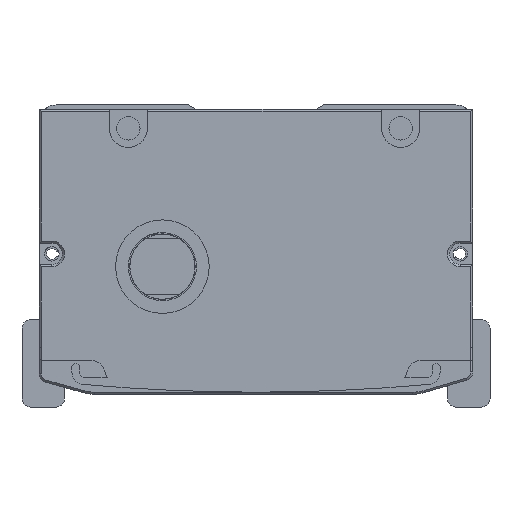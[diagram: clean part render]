
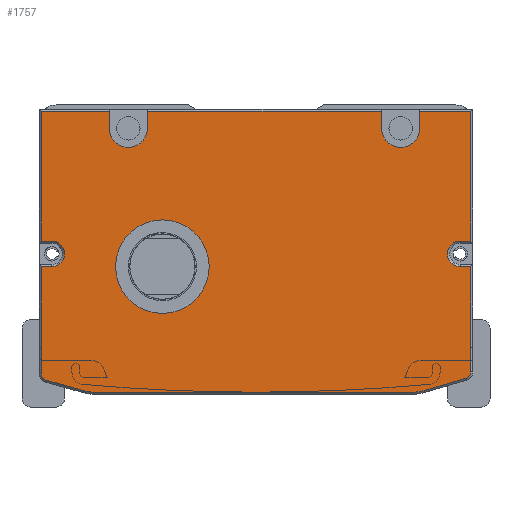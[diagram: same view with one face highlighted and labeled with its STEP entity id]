
A CAD part, front view. The second image highlights one B-rep face of the part: STEP entity #1757.
In plain terms, the highlighted planar face has unit normal (0, -1, 0).
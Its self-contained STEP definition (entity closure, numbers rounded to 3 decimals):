
#1034=FACE_BOUND('',#3651,.T.);
#1035=FACE_BOUND('',#3652,.T.);
#1757=ADVANCED_FACE('',(#1034,#1035),#2480,.F.);
#2480=PLANE('',#14782);
#3651=EDGE_LOOP('',(#6605));
#3652=EDGE_LOOP('',(#6606,#6607,#6608,#6609,#6610,#6611,#6612,#6613,#6614,
#6615,#6616,#6617,#6618,#6619,#6620,#6621,#6622,#6623,#6624,#6625,#6626,
#6627,#6628,#6629,#6630,#6631,#6632,#6633));
#4681=CIRCLE('',#14693,3.);
#4684=CIRCLE('',#14701,3.);
#4687=CIRCLE('',#14713,1.5);
#4689=CIRCLE('',#14717,9.5);
#4691=CIRCLE('',#14721,9.5);
#4693=CIRCLE('',#14725,1.5);
#4698=CIRCLE('',#14740,4.5);
#4702=CIRCLE('',#14746,4.5);
#4703=CIRCLE('',#14755,11.);
#6605=ORIENTED_EDGE('',*,*,#11184,.F.);
#6606=ORIENTED_EDGE('',*,*,#11078,.T.);
#6607=ORIENTED_EDGE('',*,*,#10974,.T.);
#6608=ORIENTED_EDGE('',*,*,#11165,.T.);
#6609=ORIENTED_EDGE('',*,*,#10978,.T.);
#6610=ORIENTED_EDGE('',*,*,#11213,.T.);
#6611=ORIENTED_EDGE('',*,*,#10984,.T.);
#6612=ORIENTED_EDGE('',*,*,#11161,.T.);
#6613=ORIENTED_EDGE('',*,*,#10988,.T.);
#6614=ORIENTED_EDGE('',*,*,#11214,.T.);
#6615=ORIENTED_EDGE('',*,*,#11082,.T.);
#6616=ORIENTED_EDGE('',*,*,#11088,.T.);
#6617=ORIENTED_EDGE('',*,*,#11091,.T.);
#6618=ORIENTED_EDGE('',*,*,#11094,.T.);
#6619=ORIENTED_EDGE('',*,*,#11096,.T.);
#6620=ORIENTED_EDGE('',*,*,#11126,.T.);
#6621=ORIENTED_EDGE('',*,*,#11130,.T.);
#6622=ORIENTED_EDGE('',*,*,#11133,.T.);
#6623=ORIENTED_EDGE('',*,*,#11136,.T.);
#6624=ORIENTED_EDGE('',*,*,#11139,.T.);
#6625=ORIENTED_EDGE('',*,*,#11142,.T.);
#6626=ORIENTED_EDGE('',*,*,#11145,.T.);
#6627=ORIENTED_EDGE('',*,*,#11147,.T.);
#6628=ORIENTED_EDGE('',*,*,#11124,.T.);
#6629=ORIENTED_EDGE('',*,*,#11114,.T.);
#6630=ORIENTED_EDGE('',*,*,#11111,.T.);
#6631=ORIENTED_EDGE('',*,*,#11108,.T.);
#6632=ORIENTED_EDGE('',*,*,#11105,.T.);
#6633=ORIENTED_EDGE('',*,*,#11100,.T.);
#9491=VERTEX_POINT('',#21787);
#9492=VERTEX_POINT('',#21789);
#9495=VERTEX_POINT('',#21796);
#9496=VERTEX_POINT('',#21798);
#9501=VERTEX_POINT('',#21809);
#9502=VERTEX_POINT('',#21811);
#9505=VERTEX_POINT('',#21818);
#9506=VERTEX_POINT('',#21820);
#9564=VERTEX_POINT('',#22006);
#9567=VERTEX_POINT('',#22014);
#9568=VERTEX_POINT('',#22015);
#9573=VERTEX_POINT('',#22026);
#9575=VERTEX_POINT('',#22032);
#9576=VERTEX_POINT('',#22037);
#9578=VERTEX_POINT('',#22043);
#9581=VERTEX_POINT('',#22051);
#9583=VERTEX_POINT('',#22057);
#9585=VERTEX_POINT('',#22063);
#9587=VERTEX_POINT('',#22069);
#9589=VERTEX_POINT('',#22075);
#9596=VERTEX_POINT('',#22099);
#9597=VERTEX_POINT('',#22103);
#9600=VERTEX_POINT('',#22110);
#9602=VERTEX_POINT('',#22116);
#9604=VERTEX_POINT('',#22122);
#9606=VERTEX_POINT('',#22128);
#9608=VERTEX_POINT('',#22134);
#9610=VERTEX_POINT('',#22140);
#9622=VERTEX_POINT('',#22213);
#10974=EDGE_CURVE('',#9492,#9491,#12639,.T.);
#10978=EDGE_CURVE('',#9496,#9495,#12643,.T.);
#10984=EDGE_CURVE('',#9502,#9501,#12649,.T.);
#10988=EDGE_CURVE('',#9506,#9505,#12653,.T.);
#11078=EDGE_CURVE('',#9564,#9492,#12726,.T.);
#11082=EDGE_CURVE('',#9567,#9568,#12730,.T.);
#11088=EDGE_CURVE('',#9568,#9573,#12736,.T.);
#11091=EDGE_CURVE('',#9573,#9575,#4681,.T.);
#11094=EDGE_CURVE('',#9575,#9576,#12740,.T.);
#11096=EDGE_CURVE('',#9576,#9578,#12742,.T.);
#11100=EDGE_CURVE('',#9581,#9564,#12746,.T.);
#11105=EDGE_CURVE('',#9583,#9581,#12751,.T.);
#11108=EDGE_CURVE('',#9585,#9583,#4684,.T.);
#11111=EDGE_CURVE('',#9587,#9585,#12755,.T.);
#11114=EDGE_CURVE('',#9589,#9587,#12758,.T.);
#11124=EDGE_CURVE('',#9596,#9589,#12766,.T.);
#11126=EDGE_CURVE('',#9578,#9597,#12768,.T.);
#11130=EDGE_CURVE('',#9597,#9600,#4687,.T.);
#11133=EDGE_CURVE('',#9600,#9602,#12773,.T.);
#11136=EDGE_CURVE('',#9602,#9604,#4689,.T.);
#11139=EDGE_CURVE('',#9604,#9606,#12777,.T.);
#11142=EDGE_CURVE('',#9606,#9608,#4691,.T.);
#11145=EDGE_CURVE('',#9608,#9610,#12781,.T.);
#11147=EDGE_CURVE('',#9610,#9596,#4693,.T.);
#11161=EDGE_CURVE('',#9501,#9506,#4698,.T.);
#11165=EDGE_CURVE('',#9491,#9496,#4702,.T.);
#11184=EDGE_CURVE('',#9622,#9622,#4703,.T.);
#11213=EDGE_CURVE('',#9495,#9502,#12832,.T.);
#11214=EDGE_CURVE('',#9505,#9567,#12833,.T.);
#12639=LINE('',#21788,#13581);
#12643=LINE('',#21797,#13585);
#12649=LINE('',#21810,#13591);
#12653=LINE('',#21819,#13595);
#12726=LINE('',#22005,#13668);
#12730=LINE('',#22013,#13672);
#12736=LINE('',#22027,#13678);
#12740=LINE('',#22039,#13682);
#12742=LINE('',#22042,#13684);
#12746=LINE('',#22050,#13688);
#12751=LINE('',#22060,#13693);
#12755=LINE('',#22072,#13697);
#12758=LINE('',#22078,#13700);
#12766=LINE('',#22098,#13708);
#12768=LINE('',#22102,#13710);
#12773=LINE('',#22117,#13715);
#12777=LINE('',#22129,#13719);
#12781=LINE('',#22141,#13723);
#12832=LINE('',#22275,#13774);
#12833=LINE('',#22276,#13775);
#13581=VECTOR('',#16945,1.);
#13585=VECTOR('',#16951,1.);
#13591=VECTOR('',#16959,1.);
#13595=VECTOR('',#16965,1.);
#13668=VECTOR('',#17132,1.);
#13672=VECTOR('',#17138,1.);
#13678=VECTOR('',#17146,1.);
#13682=VECTOR('',#17158,1.);
#13684=VECTOR('',#17162,1.);
#13688=VECTOR('',#17168,1.);
#13693=VECTOR('',#17175,1.);
#13697=VECTOR('',#17187,1.);
#13700=VECTOR('',#17192,1.);
#13708=VECTOR('',#17214,1.);
#13710=VECTOR('',#17218,1.);
#13715=VECTOR('',#17231,1.);
#13719=VECTOR('',#17243,1.);
#13723=VECTOR('',#17255,1.);
#13774=VECTOR('',#17422,1.);
#13775=VECTOR('',#17423,1.);
#14693=AXIS2_PLACEMENT_3D('',#22033,#17151,#17152);
#14701=AXIS2_PLACEMENT_3D('',#22066,#17181,#17182);
#14713=AXIS2_PLACEMENT_3D('',#22111,#17224,#17225);
#14717=AXIS2_PLACEMENT_3D('',#22123,#17236,#17237);
#14721=AXIS2_PLACEMENT_3D('',#22135,#17248,#17249);
#14725=AXIS2_PLACEMENT_3D('',#22144,#17259,#17260);
#14740=AXIS2_PLACEMENT_3D('',#22170,#17298,#17299);
#14746=AXIS2_PLACEMENT_3D('',#22178,#17310,#17311);
#14755=AXIS2_PLACEMENT_3D('',#22212,#17346,#17347);
#14782=AXIS2_PLACEMENT_3D('',#22277,#17424,#17425);
#16945=DIRECTION('',(0.,0.,-1.));
#16951=DIRECTION('',(0.,0.,1.));
#16959=DIRECTION('',(0.,0.,-1.));
#16965=DIRECTION('',(0.,0.,1.));
#17132=DIRECTION('',(-1.,0.,0.));
#17138=DIRECTION('',(0.,0.,-1.));
#17146=DIRECTION('',(1.,0.,0.));
#17151=DIRECTION('',(0.,1.,0.));
#17152=DIRECTION('',(0.,0.,1.));
#17158=DIRECTION('',(-1.,0.,0.));
#17162=DIRECTION('',(0.,0.,-1.));
#17168=DIRECTION('',(0.,0.,1.));
#17175=DIRECTION('',(1.,0.,0.));
#17181=DIRECTION('',(0.,1.,0.));
#17182=DIRECTION('',(0.,0.,1.));
#17187=DIRECTION('',(-1.,0.,0.));
#17192=DIRECTION('',(0.,0.,1.));
#17214=DIRECTION('',(0.,0.,1.));
#17218=DIRECTION('',(0.,0.,-1.));
#17224=DIRECTION('',(0.,-1.,0.));
#17225=DIRECTION('',(0.,0.,1.));
#17231=DIRECTION('',(0.963,0.,-0.269));
#17236=DIRECTION('',(0.,-1.,0.));
#17237=DIRECTION('',(0.,0.,1.));
#17243=DIRECTION('',(1.,0.,0.));
#17248=DIRECTION('',(0.,-1.,0.));
#17249=DIRECTION('',(0.,0.,1.));
#17255=DIRECTION('',(0.959,0.,0.282));
#17259=DIRECTION('',(0.,-1.,0.));
#17260=DIRECTION('',(0.,0.,1.));
#17298=DIRECTION('',(0.,1.,0.));
#17299=DIRECTION('',(0.,0.,1.));
#17310=DIRECTION('',(0.,1.,0.));
#17311=DIRECTION('',(0.,0.,1.));
#17346=DIRECTION('',(0.,-1.,0.));
#17347=DIRECTION('',(0.,0.,1.));
#17422=DIRECTION('',(-1.,0.,0.));
#17423=DIRECTION('',(-1.,0.,0.));
#17424=DIRECTION('',(0.,1.,0.));
#17425=DIRECTION('',(1.,0.,0.));
#21787=CARTESIAN_POINT('',(35.308,-407.5,-5.5));
#21788=CARTESIAN_POINT('',(35.308,-407.5,-1.));
#21789=CARTESIAN_POINT('',(35.308,-407.5,-1.5));
#21796=CARTESIAN_POINT('',(26.308,-407.5,-1.5));
#21797=CARTESIAN_POINT('',(26.308,-407.5,-1.));
#21798=CARTESIAN_POINT('',(26.308,-407.5,-5.5));
#21809=CARTESIAN_POINT('',(-28.692,-407.5,-5.5));
#21810=CARTESIAN_POINT('',(-28.692,-407.5,-1.));
#21811=CARTESIAN_POINT('',(-28.692,-407.5,-1.5));
#21818=CARTESIAN_POINT('',(-37.692,-407.5,-1.5));
#21819=CARTESIAN_POINT('',(-37.692,-407.5,-1.));
#21820=CARTESIAN_POINT('',(-37.692,-407.5,-5.5));
#22005=CARTESIAN_POINT('',(-53.692,-407.5,-1.5));
#22006=CARTESIAN_POINT('',(47.308,-407.5,-1.5));
#22013=CARTESIAN_POINT('',(-53.692,-407.5,-32.5));
#22014=CARTESIAN_POINT('',(-53.692,-407.5,-1.5));
#22015=CARTESIAN_POINT('',(-53.692,-407.5,-32.));
#22026=CARTESIAN_POINT('',(-51.192,-407.5,-32.));
#22027=CARTESIAN_POINT('',(-3.192,-407.5,-32.));
#22032=CARTESIAN_POINT('',(-51.192,-407.5,-38.));
#22033=CARTESIAN_POINT('',(-51.192,-407.5,-35.));
#22037=CARTESIAN_POINT('',(-53.692,-407.5,-38.));
#22039=CARTESIAN_POINT('',(-3.192,-407.5,-38.));
#22042=CARTESIAN_POINT('',(-53.692,-407.5,-57.));
#22043=CARTESIAN_POINT('',(-53.692,-407.5,-57.));
#22050=CARTESIAN_POINT('',(47.308,-407.5,-1.5));
#22051=CARTESIAN_POINT('',(47.308,-407.5,-32.));
#22057=CARTESIAN_POINT('',(44.808,-407.5,-32.));
#22060=CARTESIAN_POINT('',(-3.192,-407.5,-32.));
#22063=CARTESIAN_POINT('',(44.808,-407.5,-38.));
#22066=CARTESIAN_POINT('',(44.808,-407.5,-35.));
#22069=CARTESIAN_POINT('',(47.308,-407.5,-38.));
#22072=CARTESIAN_POINT('',(-3.192,-407.5,-38.));
#22075=CARTESIAN_POINT('',(47.308,-407.5,-57.));
#22078=CARTESIAN_POINT('',(47.308,-407.5,-37.5));
#22098=CARTESIAN_POINT('',(47.308,-407.5,-37.5));
#22099=CARTESIAN_POINT('',(47.308,-407.5,-62.758));
#22102=CARTESIAN_POINT('',(-53.692,-407.5,-59.712));
#22103=CARTESIAN_POINT('',(-53.692,-407.5,-63.212));
#22110=CARTESIAN_POINT('',(-52.596,-407.5,-64.657));
#22111=CARTESIAN_POINT('',(-52.192,-407.5,-63.212));
#22116=CARTESIAN_POINT('',(-43.674,-407.5,-67.15));
#22117=CARTESIAN_POINT('',(-43.674,-407.5,-67.15));
#22122=CARTESIAN_POINT('',(-41.118,-407.5,-67.5));
#22123=CARTESIAN_POINT('',(-41.118,-407.5,-58.));
#22128=CARTESIAN_POINT('',(33.631,-407.5,-67.5));
#22129=CARTESIAN_POINT('',(33.631,-407.5,-67.5));
#22134=CARTESIAN_POINT('',(36.312,-407.5,-67.114));
#22135=CARTESIAN_POINT('',(33.631,-407.5,-58.));
#22140=CARTESIAN_POINT('',(46.231,-407.5,-64.197));
#22141=CARTESIAN_POINT('',(46.231,-407.5,-64.197));
#22144=CARTESIAN_POINT('',(45.808,-407.5,-62.758));
#22170=CARTESIAN_POINT('',(-33.192,-407.5,-5.5));
#22178=CARTESIAN_POINT('',(30.808,-407.5,-5.5));
#22212=CARTESIAN_POINT('',(-25.192,-407.5,-38.));
#22213=CARTESIAN_POINT('',(-25.192,-407.5,-27.));
#22275=CARTESIAN_POINT('',(-53.692,-407.5,-1.5));
#22276=CARTESIAN_POINT('',(-53.692,-407.5,-1.5));
#22277=CARTESIAN_POINT('',(-3.192,-407.5,-1.));
